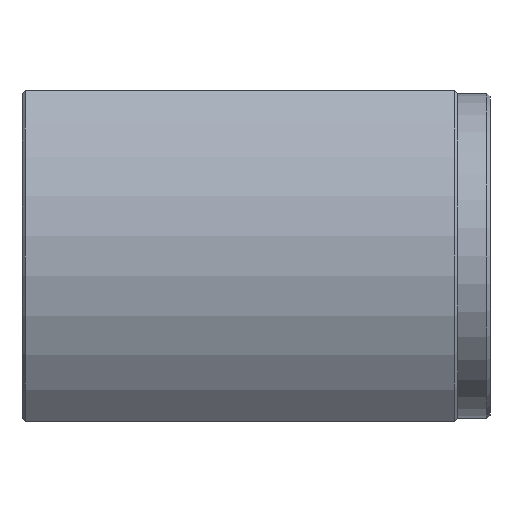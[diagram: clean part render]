
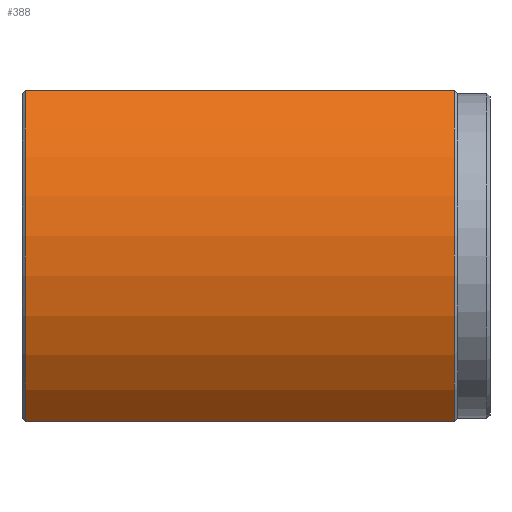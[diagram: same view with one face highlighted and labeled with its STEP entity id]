
A CAD part, front view. The second image highlights one B-rep face of the part: STEP entity #388.
In plain terms, the highlighted cylindrical face has radius 37 mm (diameter 74 mm), a partial arc.
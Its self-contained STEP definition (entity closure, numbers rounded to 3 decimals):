
#137=CARTESIAN_POINT('',(66.5,-26.81,25.5));
#138=VERTEX_POINT('',#137);
#146=CARTESIAN_POINT('',(66.5,-26.81,-25.5));
#147=VERTEX_POINT('',#146);
#148=CARTESIAN_POINT('',(66.5,0.0,0.0));
#149=DIRECTION('',(1.0,0.0,0.0));
#150=DIRECTION('',(0.0,-1.0,0.0));
#151=AXIS2_PLACEMENT_3D('',#148,#149,#150);
#152=CIRCLE('',#151,37.0);
#153=EDGE_CURVE('',#138,#147,#152,.T.);
#339=CARTESIAN_POINT('',(0.5,-26.81,-25.5));
#340=VERTEX_POINT('',#339);
#341=CARTESIAN_POINT('',(0.5,-26.81,-25.5));
#342=DIRECTION('',(1.0,0.0,0.0));
#343=VECTOR('',#342,66.);
#344=LINE('',#341,#343);
#345=EDGE_CURVE('',#340,#147,#344,.T.);
#364=CARTESIAN_POINT('',(0.0,0.0,0.0));
#365=DIRECTION('',(1.0,0.0,0.0));
#366=DIRECTION('',(0.0,1.0,0.0));
#367=AXIS2_PLACEMENT_3D('',#364,#365,#366);
#368=CYLINDRICAL_SURFACE('',#367,37.0);
#369=ORIENTED_EDGE('',*,*,#153,.F.);
#370=CARTESIAN_POINT('',(0.5,-26.81,25.5));
#371=VERTEX_POINT('',#370);
#372=CARTESIAN_POINT('',(0.5,-26.81,25.5));
#373=DIRECTION('',(1.0,0.0,0.0));
#374=VECTOR('',#373,66.);
#375=LINE('',#372,#374);
#376=EDGE_CURVE('',#371,#138,#375,.T.);
#377=ORIENTED_EDGE('',*,*,#376,.F.);
#378=CARTESIAN_POINT('',(0.5,0.0,0.0));
#379=DIRECTION('',(-1.0,0.0,0.0));
#380=DIRECTION('',(0.0,-1.0,0.0));
#381=AXIS2_PLACEMENT_3D('',#378,#379,#380);
#382=CIRCLE('',#381,37.0);
#383=EDGE_CURVE('',#340,#371,#382,.T.);
#384=ORIENTED_EDGE('',*,*,#383,.F.);
#385=ORIENTED_EDGE('',*,*,#345,.T.);
#386=EDGE_LOOP('',(#369,#377,#384,#385));
#387=FACE_OUTER_BOUND('',#386,.T.);
#388=ADVANCED_FACE('',(#387),#368,.T.);
